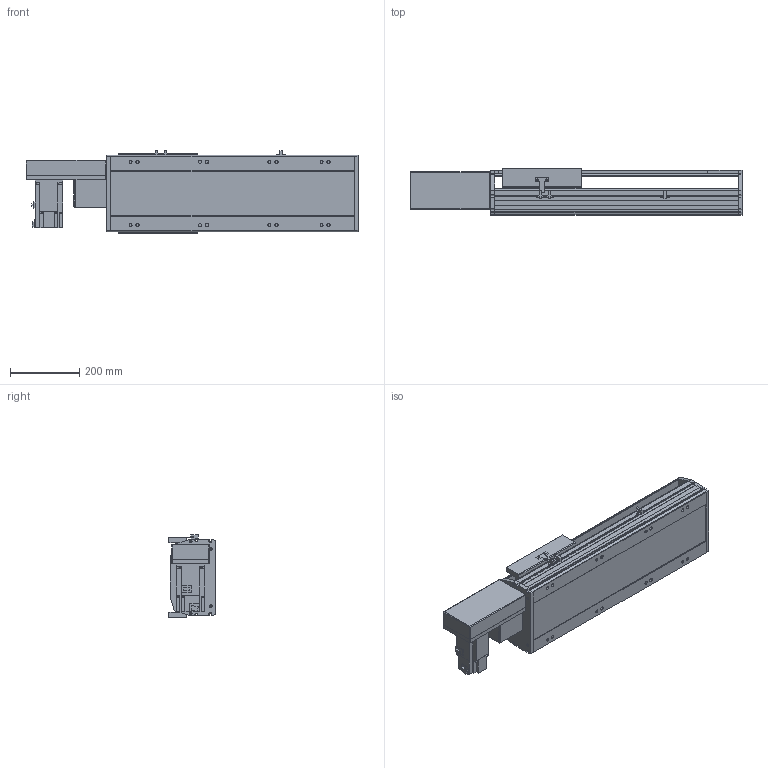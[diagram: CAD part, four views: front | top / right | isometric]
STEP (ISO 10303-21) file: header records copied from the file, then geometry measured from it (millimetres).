
FILE_DESCRIPTION(/* description */ ('STEP AP214'),/* implementation_level */ '2;1');
FILE_NAME(/* name */ 'PBS220-P40-S350-R-T75-C1-N(0)',/* time_stamp */ '2022-06-11T09:59:45+02:00',/* author */ ('License CC BY-ND 4.0'),/* organization */ ('CADENAS'),/* preprocessor_version */ 'ST-DEVELOPER v18.102',/* originating_system */ 'PARTsolutions',/* authorisation */ ' ');
FILE_SCHEMA (('AUTOMOTIVE_DESIGN {1 0 10303 214 3 1 1}'));
Length unit declared in the file: millimetre
Products named in the file (7): PBS220-P40-S350-R-T75-C1-N(0); PBS220_sensor; PBS220_plant; PBS220_sliser; T75-p1; PBS220T-R_motors; PBS220-S350()_body
Assembly tree (8 placements, depth 2):
  PBS220-P40-S350-R-T75-C1-N(0)
    PBS220_sensor  x3
    PBS220_plant
    PBS220_sliser
    T75-p1
    PBS220T-R_motors
    PBS220-S350()_body
Bounding box: 956 x 134 x 238.5 mm (x, y, z)
Volume: 12705520.7 mm3; surface area: 1354738.4 mm2
Topology: 8 solids, 8 shells, 866 faces, 2284 edges, 1486 vertices
Faces by surface type: plane 582, cylinder 252, cone 32
Full cylindrical faces by diameter (mm): 2.013 x4, 4.5 x14, 4.917 x4, 6 x7, 6.647 x8, 8 x10, 8.376 x8, 8.5 x8, 10 x6, 14 x8, 38 x2, 40 x1, 70 x1
Entity records: 24381 total; most frequent: DIRECTION 4239, CARTESIAN_POINT 4228, ORIENTED_EDGE 3962, EDGE_CURVE 1981, AXIS2_PLACEMENT_3D 1451, VERTEX_POINT 1352, LINE 1337, VECTOR 1337
